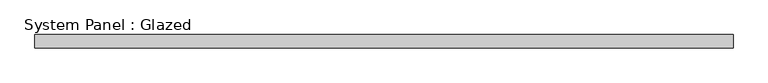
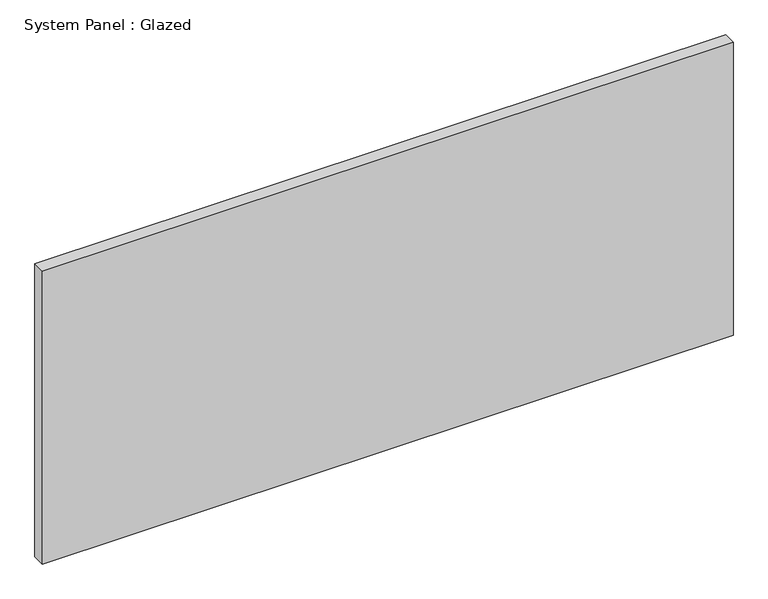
"""IFC4 building model written with IfcOpenShell, lengths in millimetres: plate geometry, System Panel : Glazed."""

from ifc_helpers import new_model, si_unit, origin, origin_with_axes, place, context, project, spatial, polyline, outline, extrude, source, transform, mapped, element, save


def system_panel_glazed_b5799559(model_context):
    return source(origin(), model_context, "Body", "SweptSolid", [
        extrude(outline(polyline([(657.9166666, 24.5), (-657.9166666, 24.5), (-657.9166666, 49.5), (657.9166666, 49.5), (657.9166666, 24.5)])), origin_with_axes(), (0.0, 0.0, 1.0), 590.0),
    ])


if __name__ == "__main__":
    model = new_model("IFC4")
    model_context = context("Model", 3, world=origin())
    ifc_project = project(units=[si_unit("LENGTHUNIT", "METRE", prefix="MILLI")], contexts=[model_context])
    site = spatial("IfcSite", under=ifc_project)
    building = spatial("IfcBuilding", under=site)
    placement = place(None, origin())
    system_panel_glazed_shape = system_panel_glazed_b5799559(model_context)
    element("IfcPlate", 1, ObjectType="System Panel : Glazed", at=placement, inside=building, context=model_context, shape_type="MappedRepresentation", body=[
        mapped(system_panel_glazed_shape, transform((0.0, 0.0, 0.0), x_axis=(1.0, 0.0, 0.0), y_axis=(0.0, 1.0, 0.0), z_axis=(0.0, 0.0, 1.0))),
    ])
    save(model, "model.ifc")
